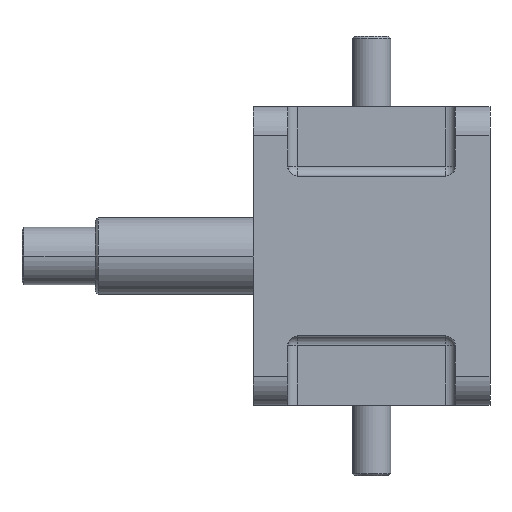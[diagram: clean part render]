
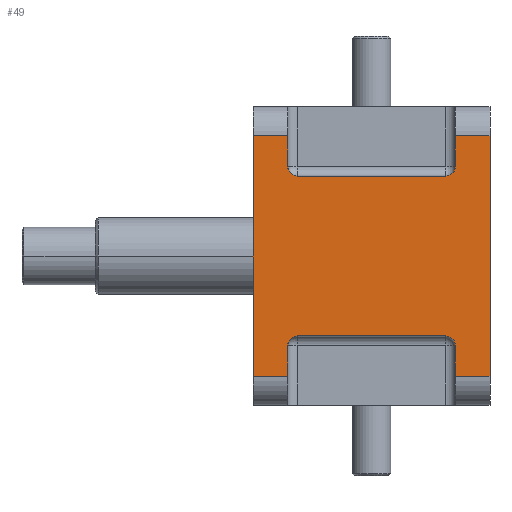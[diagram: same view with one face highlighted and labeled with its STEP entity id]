
A CAD part, left-side view. The second image highlights one B-rep face of the part: STEP entity #49.
In plain terms, the highlighted planar face has unit normal (-1, 0, 0).
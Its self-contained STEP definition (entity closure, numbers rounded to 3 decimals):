
#26 = VERTEX_POINT ( 'NONE', #5546 ) ;
#39 = EDGE_CURVE ( 'NONE', #52, #44, #5580, .T. ) ;
#42 = ORIENTED_EDGE ( 'NONE', *, *, #39, .T. ) ;
#44 = VERTEX_POINT ( 'NONE', #5572 ) ;
#45 = ORIENTED_EDGE ( 'NONE', *, *, #53, .T. ) ;
#46 = VERTEX_POINT ( 'NONE', #5571 ) ;
#47 = ORIENTED_EDGE ( 'NONE', *, *, #48, .F. ) ;
#48 = EDGE_CURVE ( 'NONE', #26, #46, #5570, .T. ) ;
#49 = ADVANCED_FACE ( 'NONE', ( #5566 ), #5565, .F. ) ;
#50 = EDGE_LOOP ( 'NONE', ( #47, #45, #42, #72, #63, #67, #61, #54, #120, #106, #97, #105, #74, #135, #142, #141 ) ) ;
#52 = VERTEX_POINT ( 'NONE', #5560 ) ;
#53 = EDGE_CURVE ( 'NONE', #26, #52, #5559, .T. ) ;
#54 = ORIENTED_EDGE ( 'NONE', *, *, #56, .T. ) ;
#56 = EDGE_CURVE ( 'NONE', #62, #4179, #5613, .T. ) ;
#59 = VERTEX_POINT ( 'NONE', #5607 ) ;
#60 = EDGE_CURVE ( 'NONE', #59, #62, #5606, .T. ) ;
#61 = ORIENTED_EDGE ( 'NONE', *, *, #60, .T. ) ;
#62 = VERTEX_POINT ( 'NONE', #5602 ) ;
#63 = ORIENTED_EDGE ( 'NONE', *, *, #65, .F. ) ;
#64 = VERTEX_POINT ( 'NONE', #5601 ) ;
#65 = EDGE_CURVE ( 'NONE', #66, #64, #5600, .T. ) ;
#66 = VERTEX_POINT ( 'NONE', #5596 ) ;
#67 = ORIENTED_EDGE ( 'NONE', *, *, #68, .T. ) ;
#68 = EDGE_CURVE ( 'NONE', #66, #59, #5595, .T. ) ;
#71 = EDGE_CURVE ( 'NONE', #64, #44, #5585, .T. ) ;
#72 = ORIENTED_EDGE ( 'NONE', *, *, #71, .F. ) ;
#74 = ORIENTED_EDGE ( 'NONE', *, *, #78, .T. ) ;
#77 = VERTEX_POINT ( 'NONE', #5643 ) ;
#78 = EDGE_CURVE ( 'NONE', #93, #77, #5637, .T. ) ;
#93 = VERTEX_POINT ( 'NONE', #5670 ) ;
#94 = EDGE_CURVE ( 'NONE', #104, #93, #5669, .T. ) ;
#96 = VERTEX_POINT ( 'NONE', #5659 ) ;
#97 = ORIENTED_EDGE ( 'NONE', *, *, #103, .F. ) ;
#103 = EDGE_CURVE ( 'NONE', #104, #96, #5648, .T. ) ;
#104 = VERTEX_POINT ( 'NONE', #5707 ) ;
#105 = ORIENTED_EDGE ( 'NONE', *, *, #94, .T. ) ;
#106 = ORIENTED_EDGE ( 'NONE', *, *, #111, .F. ) ;
#109 = VERTEX_POINT ( 'NONE', #5706 ) ;
#111 = EDGE_CURVE ( 'NONE', #96, #109, #5700, .T. ) ;
#120 = ORIENTED_EDGE ( 'NONE', *, *, #125, .T. ) ;
#125 = EDGE_CURVE ( 'NONE', #4179, #109, #5683, .T. ) ;
#135 = ORIENTED_EDGE ( 'NONE', *, *, #136, .T. ) ;
#136 = EDGE_CURVE ( 'NONE', #77, #140, #5718, .T. ) ;
#140 = VERTEX_POINT ( 'NONE', #5772 ) ;
#141 = ORIENTED_EDGE ( 'NONE', *, *, #143, .T. ) ;
#142 = ORIENTED_EDGE ( 'NONE', *, *, #147, .F. ) ;
#143 = EDGE_CURVE ( 'NONE', #148, #46, #5771, .T. ) ;
#147 = EDGE_CURVE ( 'NONE', #148, #140, #5762, .T. ) ;
#148 = VERTEX_POINT ( 'NONE', #5758 ) ;
#719 = CARTESIAN_POINT ( 'NONE',  ( -57.404, 105., 12.48 ) ) ;
#4179 = VERTEX_POINT ( 'NONE', #719 ) ;
#5546 = CARTESIAN_POINT ( 'NONE',  ( -57.404, 18., -96.52 ) ) ;
#5556 = DIRECTION ( 'NONE',  ( 0., -1., 0. ) ) ;
#5557 = VECTOR ( 'NONE', #5556, 1000. ) ;
#5558 = CARTESIAN_POINT ( 'NONE',  ( -57.404, 123., -96.52 ) ) ;
#5559 = LINE ( 'NONE', #5558, #5557 ) ;
#5560 = CARTESIAN_POINT ( 'NONE',  ( -57.404, 0., -96.52 ) ) ;
#5561 = DIRECTION ( 'NONE',  ( 0., 0., -1. ) ) ;
#5562 = DIRECTION ( 'NONE',  ( 1., 0., 0. ) ) ;
#5563 = AXIS2_PLACEMENT_3D ( 'NONE', #5564, #5562, #5561 ) ;
#5564 = CARTESIAN_POINT ( 'NONE',  ( -57.404, 123., -96.52 ) ) ;
#5565 = PLANE ( 'NONE',  #5563 ) ;
#5566 = FACE_OUTER_BOUND ( 'NONE', #50, .T. ) ;
#5567 = DIRECTION ( 'NONE',  ( 0., 0., 1. ) ) ;
#5568 = VECTOR ( 'NONE', #5567, 1000. ) ;
#5569 = CARTESIAN_POINT ( 'NONE',  ( -57.404, 18., -111.52 ) ) ;
#5570 = LINE ( 'NONE', #5569, #5568 ) ;
#5571 = CARTESIAN_POINT ( 'NONE',  ( -57.404, 18., -80.52 ) ) ;
#5572 = CARTESIAN_POINT ( 'NONE',  ( -57.404, 0., 28.48 ) ) ;
#5577 = DIRECTION ( 'NONE',  ( 0., 0., 1. ) ) ;
#5578 = VECTOR ( 'NONE', #5577, 1000. ) ;
#5579 = CARTESIAN_POINT ( 'NONE',  ( -57.404, 0., -96.52 ) ) ;
#5580 = LINE ( 'NONE', #5579, #5578 ) ;
#5585 = LINE ( 'NONE', #5647, #5646 ) ;
#5591 = DIRECTION ( 'NONE',  ( 0., 0., -1. ) ) ;
#5592 = DIRECTION ( 'NONE',  ( 1., 0., 0. ) ) ;
#5593 = CARTESIAN_POINT ( 'NONE',  ( -57.404, 23., 12.48 ) ) ;
#5594 = AXIS2_PLACEMENT_3D ( 'NONE', #5593, #5592, #5591 ) ;
#5595 = CIRCLE ( 'NONE', #5594, 5. ) ;
#5596 = CARTESIAN_POINT ( 'NONE',  ( -57.404, 18., 12.48 ) ) ;
#5597 = DIRECTION ( 'NONE',  ( 0., 0., 1. ) ) ;
#5598 = VECTOR ( 'NONE', #5597, 1000. ) ;
#5599 = CARTESIAN_POINT ( 'NONE',  ( -57.404, 18., 43.48 ) ) ;
#5600 = LINE ( 'NONE', #5599, #5598 ) ;
#5601 = CARTESIAN_POINT ( 'NONE',  ( -57.404, 18., 28.48 ) ) ;
#5602 = CARTESIAN_POINT ( 'NONE',  ( -57.404, 100., 7.48 ) ) ;
#5603 = DIRECTION ( 'NONE',  ( 0., 1., 0. ) ) ;
#5604 = VECTOR ( 'NONE', #5603, 1000. ) ;
#5605 = CARTESIAN_POINT ( 'NONE',  ( -57.404, 18., 7.48 ) ) ;
#5606 = LINE ( 'NONE', #5605, #5604 ) ;
#5607 = CARTESIAN_POINT ( 'NONE',  ( -57.404, 23., 7.48 ) ) ;
#5609 = DIRECTION ( 'NONE',  ( 0., 0., -1. ) ) ;
#5610 = DIRECTION ( 'NONE',  ( 1., 0., 0. ) ) ;
#5611 = CARTESIAN_POINT ( 'NONE',  ( -57.404, 100., 12.48 ) ) ;
#5612 = AXIS2_PLACEMENT_3D ( 'NONE', #5611, #5610, #5609 ) ;
#5613 = CIRCLE ( 'NONE', #5612, 5. ) ;
#5634 = DIRECTION ( 'NONE',  ( 0., 0., 1. ) ) ;
#5635 = VECTOR ( 'NONE', #5634, 1000. ) ;
#5636 = CARTESIAN_POINT ( 'NONE',  ( -57.404, 105., -111.52 ) ) ;
#5637 = LINE ( 'NONE', #5636, #5635 ) ;
#5643 = CARTESIAN_POINT ( 'NONE',  ( -57.404, 105., -80.52 ) ) ;
#5645 = DIRECTION ( 'NONE',  ( 0., -1., 0. ) ) ;
#5646 = VECTOR ( 'NONE', #5645, 1000. ) ;
#5647 = CARTESIAN_POINT ( 'NONE',  ( -57.404, 123., 28.48 ) ) ;
#5648 = LINE ( 'NONE', #5710, #5709 ) ;
#5659 = CARTESIAN_POINT ( 'NONE',  ( -57.404, 123., 28.48 ) ) ;
#5666 = DIRECTION ( 'NONE',  ( 0., -1., 0. ) ) ;
#5667 = VECTOR ( 'NONE', #5666, 1000. ) ;
#5668 = CARTESIAN_POINT ( 'NONE',  ( -57.404, 123., -96.52 ) ) ;
#5669 = LINE ( 'NONE', #5668, #5667 ) ;
#5670 = CARTESIAN_POINT ( 'NONE',  ( -57.404, 105., -96.52 ) ) ;
#5680 = DIRECTION ( 'NONE',  ( 0., 0., 1. ) ) ;
#5681 = VECTOR ( 'NONE', #5680, 1000. ) ;
#5682 = CARTESIAN_POINT ( 'NONE',  ( -57.404, 105., 43.48 ) ) ;
#5683 = LINE ( 'NONE', #5682, #5681 ) ;
#5697 = DIRECTION ( 'NONE',  ( 0., -1., 0. ) ) ;
#5698 = VECTOR ( 'NONE', #5697, 1000. ) ;
#5699 = CARTESIAN_POINT ( 'NONE',  ( -57.404, 123., 28.48 ) ) ;
#5700 = LINE ( 'NONE', #5699, #5698 ) ;
#5706 = CARTESIAN_POINT ( 'NONE',  ( -57.404, 105., 28.48 ) ) ;
#5707 = CARTESIAN_POINT ( 'NONE',  ( -57.404, 123., -96.52 ) ) ;
#5708 = DIRECTION ( 'NONE',  ( 0., 0., 1. ) ) ;
#5709 = VECTOR ( 'NONE', #5708, 1000. ) ;
#5710 = CARTESIAN_POINT ( 'NONE',  ( -57.404, 123., -96.52 ) ) ;
#5714 = DIRECTION ( 'NONE',  ( 0., 0., -1. ) ) ;
#5715 = DIRECTION ( 'NONE',  ( 1., 0., 0. ) ) ;
#5716 = CARTESIAN_POINT ( 'NONE',  ( -57.404, 100., -80.52 ) ) ;
#5717 = AXIS2_PLACEMENT_3D ( 'NONE', #5716, #5715, #5714 ) ;
#5718 = CIRCLE ( 'NONE', #5717, 5. ) ;
#5758 = CARTESIAN_POINT ( 'NONE',  ( -57.404, 23., -75.52 ) ) ;
#5759 = DIRECTION ( 'NONE',  ( 0., 1., 0. ) ) ;
#5760 = VECTOR ( 'NONE', #5759, 1000. ) ;
#5761 = CARTESIAN_POINT ( 'NONE',  ( -57.404, 18., -75.52 ) ) ;
#5762 = LINE ( 'NONE', #5761, #5760 ) ;
#5767 = DIRECTION ( 'NONE',  ( 0., 0., -1. ) ) ;
#5768 = DIRECTION ( 'NONE',  ( 1., 0., 0. ) ) ;
#5769 = CARTESIAN_POINT ( 'NONE',  ( -57.404, 23., -80.52 ) ) ;
#5770 = AXIS2_PLACEMENT_3D ( 'NONE', #5769, #5768, #5767 ) ;
#5771 = CIRCLE ( 'NONE', #5770, 5. ) ;
#5772 = CARTESIAN_POINT ( 'NONE',  ( -57.404, 100., -75.52 ) ) ;
